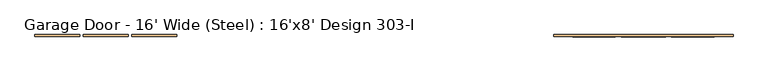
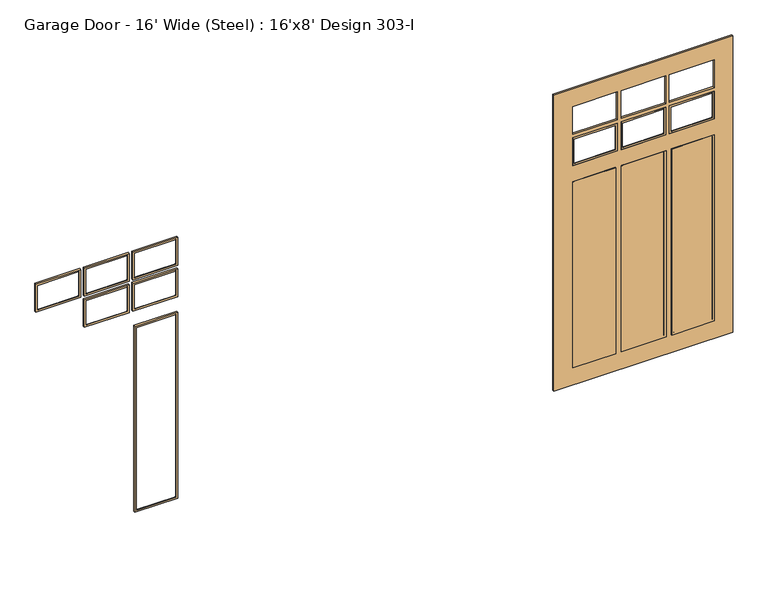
"""IFC4 building model written with IfcOpenShell, lengths in millimetres: door geometry, Garage Door - 16' Wide (Steel) : 16'x8' Design 303-I."""

from ifc_helpers import new_model, si_unit, frame, origin, place, context, project, spatial, polyline, ellipse_curve, outline, extrude, source, transform, mapped, element, save
from ifc_brep_helpers import plane_surface, cylinder_surface, advanced_brep


def garage_door_16_wide_steel_16_x8_design_303_i_fd549f48(model_context):
    return source(origin(), model_context, "Body", "SolidModel", [
        advanced_brep(
        [(1349.375, -107.15625, 1778.0), (1358.9, -116.68125, 1768.475), (1358.9, -116.68125, 1593.85), (1349.375, -107.15625, 1584.325), (1349.375, -103.98125, 1778.0), (1349.375, -103.98125, 1584.325), (1346.2, -116.68125, 1781.175), (1346.2, -103.98125, 1781.175), (1346.2, -103.98125, 1581.15), (1346.2, -116.68125, 1581.15), (1638.3, -116.68125, 1593.85), (1647.825, -107.15625, 1584.325), (1647.825, -103.98125, 1584.325), (1651.0, -103.98125, 1581.15), (1651.0, -116.68125, 1581.15), (1638.3, -116.68125, 1768.475), (1647.825, -107.15625, 1778.0), (1647.825, -103.98125, 1778.0), (1651.0, -103.98125, 1781.175), (1651.0, -116.68125, 1781.175)],
        [
            (0, 1, ellipse_curve(frame((1349.375, -116.68125, 1778.0), z_axis=(-0.7071067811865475, 0.0, -0.7071067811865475), x_axis=(-0.7071067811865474, 0.0, 0.7071067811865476)), 13.4703842, 9.525)),
            (1, 2),
            (2, 3, ellipse_curve(frame((1349.375, -116.68125, 1584.325), z_axis=(-0.7071067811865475, 0.0, 0.7071067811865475), x_axis=(0.7071067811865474, 0.0, 0.7071067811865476)), 13.4703842, 9.525)),
            (3, 0),
            (4, 0),
            (3, 5),
            (5, 4),
            (6, 7),
            (7, 8),
            (8, 9),
            (9, 6),
            (2, 10),
            (10, 11, ellipse_curve(frame((1647.825, -116.68125, 1584.325), z_axis=(-0.7071067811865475, 0.0, -0.7071067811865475), x_axis=(-0.7071067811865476, 0.0, 0.7071067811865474)), 13.4703842, 9.525)),
            (11, 3),
            (11, 12),
            (12, 5),
            (8, 13),
            (13, 14),
            (14, 9),
            (10, 15),
            (15, 16, ellipse_curve(frame((1647.825, -116.68125, 1778.0), z_axis=(0.7071067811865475, 0.0, -0.7071067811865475), x_axis=(-0.7071067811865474, 0.0, -0.7071067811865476)), 13.4703842, 9.525)),
            (16, 11),
            (16, 17),
            (17, 12),
            (13, 18),
            (18, 19),
            (19, 14),
            (19, 6),
            (1, 15),
            (0, 16),
            (4, 17),
            (7, 18),
        ],
        [
            cylinder_surface(frame((1349.375, -116.68125, 1781.175), z_axis=(0.0, 0.0, 1.0), x_axis=(-1.0, 0.0, 0.0)), 9.525),
            plane_surface(frame((1349.375, -107.15625, 1778.0), z_axis=(1.0, 0.0, 0.0), x_axis=(0.0, 0.0, -1.0))),
            plane_surface(frame((1346.2, -103.98125, 1781.175), z_axis=(-1.0, 0.0, 0.0), x_axis=(0.0, 0.0, -1.0))),
            cylinder_surface(frame((1346.2, -116.68125, 1584.325), z_axis=(-1.0, 0.0, 0.0), x_axis=(0.0, 0.0, -1.0)), 9.525),
            plane_surface(frame((1349.375, -107.15625, 1584.325), z_axis=(0.0, 0.0, 1.0), x_axis=(1.0, 0.0, 0.0))),
            plane_surface(frame((1346.2, -103.98125, 1581.15), z_axis=(0.0, 0.0, -1.0), x_axis=(1.0, 0.0, 0.0))),
            cylinder_surface(frame((1647.825, -116.68125, 1581.15), z_axis=(0.0, 0.0, -1.0), x_axis=(1.0, 0.0, 0.0)), 9.525),
            plane_surface(frame((1647.825, -107.15625, 1584.325), z_axis=(-1.0, 0.0, 0.0), x_axis=(0.0, 0.0, 1.0))),
            plane_surface(frame((1651.0, -103.98125, 1581.15), z_axis=(1.0, 0.0, 0.0), x_axis=(0.0, 0.0, 1.0))),
            plane_surface(frame((1651.0, -116.68125, 1781.175), z_axis=(0.0, -1.0, 0.0), x_axis=(-1.0, 0.0, 0.0))),
            cylinder_surface(frame((1651.0, -116.68125, 1778.0), z_axis=(1.0, 0.0, 0.0), x_axis=(0.0, 0.0, 1.0)), 9.525),
            plane_surface(frame((1647.825, -107.15625, 1778.0), z_axis=(0.0, 0.0, -1.0), x_axis=(-1.0, 0.0, 0.0))),
            plane_surface(frame((1647.825, -103.98125, 1778.0), z_axis=(0.0, 1.0, 0.0), x_axis=(-1.0, 0.0, 0.0))),
            plane_surface(frame((1651.0, -103.98125, 1781.175), z_axis=(0.0, 0.0, 1.0), x_axis=(-1.0, 0.0, 0.0))),
        ],
        [
            (0, [[1, 2, 3, 4]]),
            (1, [[5, -4, 6, 7]]),
            (2, [[8, 9, 10, 11]]),
            (3, [[-3, 12, 13, 14]]),
            (4, [[-6, -14, 15, 16]]),
            (5, [[-10, 17, 18, 19]]),
            (6, [[-13, 20, 21, 22]]),
            (7, [[-15, -22, 23, 24]]),
            (8, [[-18, 25, 26, 27]]),
            (9, [[-19, -27, 28, -11], [29, -20, -12, -2]]),
            (10, [[-21, -29, -1, 30]]),
            (11, [[-23, -30, -5, 31]]),
            (12, [[32, -25, -17, -9], [-16, -24, -31, -7]]),
            (13, [[-26, -32, -8, -28]]),
        ],
    ),
        advanced_brep(
        [(1679.575, -107.15625, 1778.0), (1689.1, -116.68125, 1768.475), (1689.1, -116.68125, 1593.85), (1679.575, -107.15625, 1584.325), (1679.575, -103.98125, 1778.0), (1679.575, -103.98125, 1584.325), (1676.4, -116.68125, 1781.175), (1676.4, -103.98125, 1781.175), (1676.4, -103.98125, 1581.15), (1676.4, -116.68125, 1581.15), (1968.5, -116.68125, 1593.85), (1978.025, -107.15625, 1584.325), (1978.025, -103.98125, 1584.325), (1981.2, -103.98125, 1581.15), (1981.2, -116.68125, 1581.15), (1968.5, -116.68125, 1768.475), (1978.025, -107.15625, 1778.0), (1978.025, -103.98125, 1778.0), (1981.2, -103.98125, 1781.175), (1981.2, -116.68125, 1781.175)],
        [
            (0, 1, ellipse_curve(frame((1679.575, -116.68125, 1778.0), z_axis=(-0.7071067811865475, 0.0, -0.7071067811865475), x_axis=(-0.7071067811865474, 0.0, 0.7071067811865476)), 13.4703842, 9.525)),
            (1, 2),
            (2, 3, ellipse_curve(frame((1679.575, -116.68125, 1584.325), z_axis=(-0.7071067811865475, 0.0, 0.7071067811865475), x_axis=(0.7071067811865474, 0.0, 0.7071067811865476)), 13.4703842, 9.525)),
            (3, 0),
            (4, 0),
            (3, 5),
            (5, 4),
            (6, 7),
            (7, 8),
            (8, 9),
            (9, 6),
            (2, 10),
            (10, 11, ellipse_curve(frame((1978.025, -116.68125, 1584.325), z_axis=(-0.7071067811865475, 0.0, -0.7071067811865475), x_axis=(-0.7071067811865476, 0.0, 0.7071067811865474)), 13.4703842, 9.525)),
            (11, 3),
            (11, 12),
            (12, 5),
            (8, 13),
            (13, 14),
            (14, 9),
            (10, 15),
            (15, 16, ellipse_curve(frame((1978.025, -116.68125, 1778.0), z_axis=(0.7071067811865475, 0.0, -0.7071067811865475), x_axis=(-0.7071067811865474, 0.0, -0.7071067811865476)), 13.4703842, 9.525)),
            (16, 11),
            (16, 17),
            (17, 12),
            (13, 18),
            (18, 19),
            (19, 14),
            (19, 6),
            (1, 15),
            (0, 16),
            (4, 17),
            (7, 18),
        ],
        [
            cylinder_surface(frame((1679.575, -116.68125, 1781.175), z_axis=(0.0, 0.0, 1.0), x_axis=(-1.0, 0.0, 0.0)), 9.525),
            plane_surface(frame((1679.575, -107.15625, 1778.0), z_axis=(1.0, 0.0, 0.0), x_axis=(0.0, 0.0, -1.0))),
            plane_surface(frame((1676.4, -103.98125, 1781.175), z_axis=(-1.0, 0.0, 0.0), x_axis=(0.0, 0.0, -1.0))),
            cylinder_surface(frame((1676.4, -116.68125, 1584.325), z_axis=(-1.0, 0.0, 0.0), x_axis=(0.0, 0.0, -1.0)), 9.525),
            plane_surface(frame((1679.575, -107.15625, 1584.325), z_axis=(0.0, 0.0, 1.0), x_axis=(1.0, 0.0, 0.0))),
            plane_surface(frame((1676.4, -103.98125, 1581.15), z_axis=(0.0, 0.0, -1.0), x_axis=(1.0, 0.0, 0.0))),
            cylinder_surface(frame((1978.025, -116.68125, 1581.15), z_axis=(0.0, 0.0, -1.0), x_axis=(1.0, 0.0, 0.0)), 9.525),
            plane_surface(frame((1978.025, -107.15625, 1584.325), z_axis=(-1.0, 0.0, 0.0), x_axis=(0.0, 0.0, 1.0))),
            plane_surface(frame((1981.2, -103.98125, 1581.15), z_axis=(1.0, 0.0, 0.0), x_axis=(0.0, 0.0, 1.0))),
            plane_surface(frame((1981.2, -116.68125, 1781.175), z_axis=(0.0, -1.0, 0.0), x_axis=(-1.0, 0.0, 0.0))),
            cylinder_surface(frame((1981.2, -116.68125, 1778.0), z_axis=(1.0, 0.0, 0.0), x_axis=(0.0, 0.0, 1.0)), 9.525),
            plane_surface(frame((1978.025, -107.15625, 1778.0), z_axis=(0.0, 0.0, -1.0), x_axis=(-1.0, 0.0, 0.0))),
            plane_surface(frame((1978.025, -103.98125, 1778.0), z_axis=(0.0, 1.0, 0.0), x_axis=(-1.0, 0.0, 0.0))),
            plane_surface(frame((1981.2, -103.98125, 1781.175), z_axis=(0.0, 0.0, 1.0), x_axis=(-1.0, 0.0, 0.0))),
        ],
        [
            (0, [[1, 2, 3, 4]]),
            (1, [[5, -4, 6, 7]]),
            (2, [[8, 9, 10, 11]]),
            (3, [[-3, 12, 13, 14]]),
            (4, [[-6, -14, 15, 16]]),
            (5, [[-10, 17, 18, 19]]),
            (6, [[-13, 20, 21, 22]]),
            (7, [[-15, -22, 23, 24]]),
            (8, [[-18, 25, 26, 27]]),
            (9, [[-19, -27, 28, -11], [29, -20, -12, -2]]),
            (10, [[-21, -29, -1, 30]]),
            (11, [[-23, -30, -5, 31]]),
            (12, [[32, -25, -17, -9], [-16, -24, -31, -7]]),
            (13, [[-26, -32, -8, -28]]),
        ],
    ),
        advanced_brep(
        [(2009.775, -107.15625, 1778.0), (2019.3, -116.68125, 1768.475), (2019.3, -116.68125, 1593.85), (2009.775, -107.15625, 1584.325), (2009.775, -103.98125, 1778.0), (2009.775, -103.98125, 1584.325), (2006.6, -116.68125, 1781.175), (2006.6, -103.98125, 1781.175), (2006.6, -103.98125, 1581.15), (2006.6, -116.68125, 1581.15), (2298.7, -116.68125, 1593.85), (2308.225, -107.15625, 1584.325), (2308.225, -103.98125, 1584.325), (2311.4, -103.98125, 1581.15), (2311.4, -116.68125, 1581.15), (2298.7, -116.68125, 1768.475), (2308.225, -107.15625, 1778.0), (2308.225, -103.98125, 1778.0), (2311.4, -103.98125, 1781.175), (2311.4, -116.68125, 1781.175)],
        [
            (0, 1, ellipse_curve(frame((2009.775, -116.68125, 1778.0), z_axis=(-0.7071067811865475, 0.0, -0.7071067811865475), x_axis=(-0.7071067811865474, 0.0, 0.7071067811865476)), 13.4703842, 9.525)),
            (1, 2),
            (2, 3, ellipse_curve(frame((2009.775, -116.68125, 1584.325), z_axis=(-0.7071067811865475, 0.0, 0.7071067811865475), x_axis=(0.7071067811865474, 0.0, 0.7071067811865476)), 13.4703842, 9.525)),
            (3, 0),
            (4, 0),
            (3, 5),
            (5, 4),
            (6, 7),
            (7, 8),
            (8, 9),
            (9, 6),
            (2, 10),
            (10, 11, ellipse_curve(frame((2308.225, -116.68125, 1584.325), z_axis=(-0.7071067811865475, 0.0, -0.7071067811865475), x_axis=(-0.7071067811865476, 0.0, 0.7071067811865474)), 13.4703842, 9.525)),
            (11, 3),
            (11, 12),
            (12, 5),
            (8, 13),
            (13, 14),
            (14, 9),
            (10, 15),
            (15, 16, ellipse_curve(frame((2308.225, -116.68125, 1778.0), z_axis=(0.7071067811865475, 0.0, -0.7071067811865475), x_axis=(-0.7071067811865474, 0.0, -0.7071067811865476)), 13.4703842, 9.525)),
            (16, 11),
            (16, 17),
            (17, 12),
            (13, 18),
            (18, 19),
            (19, 14),
            (19, 6),
            (1, 15),
            (0, 16),
            (4, 17),
            (7, 18),
        ],
        [
            cylinder_surface(frame((2009.775, -116.68125, 1781.175), z_axis=(0.0, 0.0, 1.0), x_axis=(-1.0, 0.0, 0.0)), 9.525),
            plane_surface(frame((2009.775, -107.15625, 1778.0), z_axis=(1.0, 0.0, 0.0), x_axis=(0.0, 0.0, -1.0))),
            plane_surface(frame((2006.6, -103.98125, 1781.175), z_axis=(-1.0, 0.0, 0.0), x_axis=(0.0, 0.0, -1.0))),
            cylinder_surface(frame((2006.6, -116.68125, 1584.325), z_axis=(-1.0, 0.0, 0.0), x_axis=(0.0, 0.0, -1.0)), 9.525),
            plane_surface(frame((2009.775, -107.15625, 1584.325), z_axis=(0.0, 0.0, 1.0), x_axis=(1.0, 0.0, 0.0))),
            plane_surface(frame((2006.6, -103.98125, 1581.15), z_axis=(0.0, 0.0, -1.0), x_axis=(1.0, 0.0, 0.0))),
            cylinder_surface(frame((2308.225, -116.68125, 1581.15), z_axis=(0.0, 0.0, -1.0), x_axis=(1.0, 0.0, 0.0)), 9.525),
            plane_surface(frame((2308.225, -107.15625, 1584.325), z_axis=(-1.0, 0.0, 0.0), x_axis=(0.0, 0.0, 1.0))),
            plane_surface(frame((2311.4, -103.98125, 1581.15), z_axis=(1.0, 0.0, 0.0), x_axis=(0.0, 0.0, 1.0))),
            plane_surface(frame((2311.4, -116.68125, 1781.175), z_axis=(0.0, -1.0, 0.0), x_axis=(-1.0, 0.0, 0.0))),
            cylinder_surface(frame((2311.4, -116.68125, 1778.0), z_axis=(1.0, 0.0, 0.0), x_axis=(0.0, 0.0, 1.0)), 9.525),
            plane_surface(frame((2308.225, -107.15625, 1778.0), z_axis=(0.0, 0.0, -1.0), x_axis=(-1.0, 0.0, 0.0))),
            plane_surface(frame((2308.225, -103.98125, 1778.0), z_axis=(0.0, 1.0, 0.0), x_axis=(-1.0, 0.0, 0.0))),
            plane_surface(frame((2311.4, -103.98125, 1781.175), z_axis=(0.0, 0.0, 1.0), x_axis=(-1.0, 0.0, 0.0))),
        ],
        [
            (0, [[1, 2, 3, 4]]),
            (1, [[5, -4, 6, 7]]),
            (2, [[8, 9, 10, 11]]),
            (3, [[-3, 12, 13, 14]]),
            (4, [[-6, -14, 15, 16]]),
            (5, [[-10, 17, 18, 19]]),
            (6, [[-13, 20, 21, 22]]),
            (7, [[-15, -22, 23, 24]]),
            (8, [[-18, 25, 26, 27]]),
            (9, [[-19, -27, 28, -11], [29, -20, -12, -2]]),
            (10, [[-21, -29, -1, 30]]),
            (11, [[-23, -30, -5, 31]]),
            (12, [[32, -25, -17, -9], [-16, -24, -31, -7]]),
            (13, [[-26, -32, -8, -28]]),
        ],
    ),
        advanced_brep(
        [(1981.2, -103.98125, 1466.85), (1981.2, -116.68125, 1466.85), (1981.2, -116.68125, 127.0), (1981.2, -103.98125, 127.0), (1978.025, -107.15625, 1463.675), (1978.025, -103.98125, 1463.675), (1978.025, -103.98125, 130.175), (1978.025, -107.15625, 130.175), (1968.5, -116.68125, 1454.15), (1968.5, -116.68125, 139.7), (1676.4, -116.68125, 127.0), (1676.4, -103.98125, 127.0), (1679.575, -103.98125, 130.175), (1679.575, -107.15625, 130.175), (1689.1, -116.68125, 139.7), (1676.4, -116.68125, 1466.85), (1676.4, -103.98125, 1466.85), (1679.575, -103.98125, 1463.675), (1679.575, -107.15625, 1463.675), (1689.1, -116.68125, 1454.15)],
        [
            (0, 1),
            (1, 2),
            (2, 3),
            (3, 0),
            (4, 5),
            (5, 6),
            (6, 7),
            (7, 4),
            (8, 4, ellipse_curve(frame((1978.025, -116.68125, 1463.675), z_axis=(0.7071067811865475, 0.0, -0.7071067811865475), x_axis=(0.7071067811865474, 0.0, 0.7071067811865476)), 13.4703842, 9.525)),
            (7, 9, ellipse_curve(frame((1978.025, -116.68125, 130.175), z_axis=(0.7071067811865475, 0.0, 0.7071067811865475), x_axis=(-0.7071067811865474, 0.0, 0.7071067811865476)), 13.4703842, 9.525)),
            (9, 8),
            (2, 10),
            (10, 11),
            (11, 3),
            (6, 12),
            (12, 13),
            (13, 7),
            (13, 14, ellipse_curve(frame((1679.575, -116.68125, 130.175), z_axis=(0.7071067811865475, 0.0, -0.7071067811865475), x_axis=(0.7071067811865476, 0.0, 0.7071067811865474)), 13.4703842, 9.525)),
            (14, 9),
            (10, 15),
            (15, 16),
            (16, 11),
            (12, 17),
            (17, 18),
            (18, 13),
            (18, 19, ellipse_curve(frame((1679.575, -116.68125, 1463.675), z_axis=(-0.7071067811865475, 0.0, -0.7071067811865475), x_axis=(0.7071067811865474, 0.0, -0.7071067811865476)), 13.4703842, 9.525)),
            (19, 14),
            (15, 1),
            (0, 16),
            (5, 17),
            (4, 18),
            (8, 19),
        ],
        [
            plane_surface(frame((1981.2, -116.68125, 1466.85), z_axis=(1.0, 0.0, 0.0), x_axis=(0.0, 0.0, -1.0))),
            plane_surface(frame((1978.025, -103.98125, 1463.675), z_axis=(-1.0, 0.0, 0.0), x_axis=(0.0, 0.0, -1.0))),
            cylinder_surface(frame((1978.025, -116.68125, 1466.85), z_axis=(0.0, 0.0, 1.0), x_axis=(-1.0, 0.0, 0.0)), 9.525),
            plane_surface(frame((1981.2, -116.68125, 127.0), z_axis=(0.0, 0.0, -1.0), x_axis=(-1.0, 0.0, 0.0))),
            plane_surface(frame((1978.025, -103.98125, 130.175), z_axis=(0.0, 0.0, 1.0), x_axis=(-1.0, 0.0, 0.0))),
            cylinder_surface(frame((1981.2, -116.68125, 130.175), z_axis=(1.0, 0.0, 0.0), x_axis=(0.0, 0.0, 1.0)), 9.525),
            plane_surface(frame((1676.4, -116.68125, 127.0), z_axis=(-1.0, 0.0, 0.0), x_axis=(0.0, 0.0, 1.0))),
            plane_surface(frame((1679.575, -103.98125, 130.175), z_axis=(1.0, 0.0, 0.0), x_axis=(0.0, 0.0, 1.0))),
            cylinder_surface(frame((1679.575, -116.68125, 127.0), z_axis=(0.0, 0.0, -1.0), x_axis=(1.0, 0.0, 0.0)), 9.525),
            plane_surface(frame((1676.4, -116.68125, 1466.85), z_axis=(0.0, 0.0, 1.0), x_axis=(1.0, 0.0, 0.0))),
            plane_surface(frame((1676.4, -103.98125, 1466.85), z_axis=(0.0, 1.0, 0.0), x_axis=(1.0, 0.0, 0.0))),
            plane_surface(frame((1679.575, -103.98125, 1463.675), z_axis=(0.0, 0.0, -1.0), x_axis=(1.0, 0.0, 0.0))),
            cylinder_surface(frame((1676.4, -116.68125, 1463.675), z_axis=(-1.0, 0.0, 0.0), x_axis=(0.0, 0.0, -1.0)), 9.525),
            plane_surface(frame((1689.1, -116.68125, 1454.15), z_axis=(0.0, -1.0, 0.0), x_axis=(1.0, 0.0, 0.0))),
        ],
        [
            (0, [[1, 2, 3, 4]]),
            (1, [[5, 6, 7, 8]]),
            (2, [[9, -8, 10, 11]]),
            (3, [[-3, 12, 13, 14]]),
            (4, [[-7, 15, 16, 17]]),
            (5, [[-10, -17, 18, 19]]),
            (6, [[-13, 20, 21, 22]]),
            (7, [[-16, 23, 24, 25]]),
            (8, [[-18, -25, 26, 27]]),
            (9, [[-21, 28, -1, 29]]),
            (10, [[-14, -22, -29, -4], [30, -23, -15, -6]]),
            (11, [[-24, -30, -5, 31]]),
            (12, [[-26, -31, -9, 32]]),
            (13, [[-28, -20, -12, -2], [-19, -27, -32, -11]]),
        ],
    ),
        advanced_brep(
        [(2311.4, -103.98125, 1466.85), (2311.4, -116.68125, 1466.85), (2311.4, -116.68125, 127.0), (2311.4, -103.98125, 127.0), (2308.225, -107.15625, 1463.675), (2308.225, -103.98125, 1463.675), (2308.225, -103.98125, 130.175), (2308.225, -107.15625, 130.175), (2298.7, -116.68125, 1454.15), (2298.7, -116.68125, 139.7), (2019.3, -116.68125, 127.0), (2019.3, -103.98125, 127.0), (2022.475, -103.98125, 130.175), (2022.475, -107.15625, 130.175), (2032.0, -116.68125, 139.7), (2019.3, -116.68125, 1466.85), (2019.3, -103.98125, 1466.85), (2022.475, -103.98125, 1463.675), (2022.475, -107.15625, 1463.675), (2032.0, -116.68125, 1454.15)],
        [
            (0, 1),
            (1, 2),
            (2, 3),
            (3, 0),
            (4, 5),
            (5, 6),
            (6, 7),
            (7, 4),
            (8, 4, ellipse_curve(frame((2308.225, -116.68125, 1463.675), z_axis=(0.7071067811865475, 0.0, -0.7071067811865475), x_axis=(0.7071067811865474, 0.0, 0.7071067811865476)), 13.4703842, 9.525)),
            (7, 9, ellipse_curve(frame((2308.225, -116.68125, 130.175), z_axis=(0.7071067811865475, 0.0, 0.7071067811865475), x_axis=(-0.7071067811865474, 0.0, 0.7071067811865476)), 13.4703842, 9.525)),
            (9, 8),
            (2, 10),
            (10, 11),
            (11, 3),
            (6, 12),
            (12, 13),
            (13, 7),
            (13, 14, ellipse_curve(frame((2022.475, -116.68125, 130.175), z_axis=(0.7071067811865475, 0.0, -0.7071067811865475), x_axis=(0.7071067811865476, 0.0, 0.7071067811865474)), 13.4703842, 9.525)),
            (14, 9),
            (10, 15),
            (15, 16),
            (16, 11),
            (12, 17),
            (17, 18),
            (18, 13),
            (18, 19, ellipse_curve(frame((2022.475, -116.68125, 1463.675), z_axis=(-0.7071067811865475, 0.0, -0.7071067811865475), x_axis=(0.7071067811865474, 0.0, -0.7071067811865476)), 13.4703842, 9.525)),
            (19, 14),
            (15, 1),
            (0, 16),
            (5, 17),
            (4, 18),
            (8, 19),
        ],
        [
            plane_surface(frame((2311.4, -116.68125, 1466.85), z_axis=(1.0, 0.0, 0.0), x_axis=(0.0, 0.0, -1.0))),
            plane_surface(frame((2308.225, -103.98125, 1463.675), z_axis=(-1.0, 0.0, 0.0), x_axis=(0.0, 0.0, -1.0))),
            cylinder_surface(frame((2308.225, -116.68125, 1466.85), z_axis=(0.0, 0.0, 1.0), x_axis=(-1.0, 0.0, 0.0)), 9.525),
            plane_surface(frame((2311.4, -116.68125, 127.0), z_axis=(0.0, 0.0, -1.0), x_axis=(-1.0, 0.0, 0.0))),
            plane_surface(frame((2308.225, -103.98125, 130.175), z_axis=(0.0, 0.0, 1.0), x_axis=(-1.0, 0.0, 0.0))),
            cylinder_surface(frame((2311.4, -116.68125, 130.175), z_axis=(1.0, 0.0, 0.0), x_axis=(0.0, 0.0, 1.0)), 9.525),
            plane_surface(frame((2019.3, -116.68125, 127.0), z_axis=(-1.0, 0.0, 0.0), x_axis=(0.0, 0.0, 1.0))),
            plane_surface(frame((2022.475, -103.98125, 130.175), z_axis=(1.0, 0.0, 0.0), x_axis=(0.0, 0.0, 1.0))),
            cylinder_surface(frame((2022.475, -116.68125, 127.0), z_axis=(0.0, 0.0, -1.0), x_axis=(1.0, 0.0, 0.0)), 9.525),
            plane_surface(frame((2019.3, -116.68125, 1466.85), z_axis=(0.0, 0.0, 1.0), x_axis=(1.0, 0.0, 0.0))),
            plane_surface(frame((2019.3, -103.98125, 1466.85), z_axis=(0.0, 1.0, 0.0), x_axis=(1.0, 0.0, 0.0))),
            plane_surface(frame((2022.475, -103.98125, 1463.675), z_axis=(0.0, 0.0, -1.0), x_axis=(1.0, 0.0, 0.0))),
            cylinder_surface(frame((2019.3, -116.68125, 1463.675), z_axis=(-1.0, 0.0, 0.0), x_axis=(0.0, 0.0, -1.0)), 9.525),
            plane_surface(frame((2032.0, -116.68125, 1454.15), z_axis=(0.0, -1.0, 0.0), x_axis=(1.0, 0.0, 0.0))),
        ],
        [
            (0, [[1, 2, 3, 4]]),
            (1, [[5, 6, 7, 8]]),
            (2, [[9, -8, 10, 11]]),
            (3, [[-3, 12, 13, 14]]),
            (4, [[-7, 15, 16, 17]]),
            (5, [[-10, -17, 18, 19]]),
            (6, [[-13, 20, 21, 22]]),
            (7, [[-16, 23, 24, 25]]),
            (8, [[-18, -25, 26, 27]]),
            (9, [[-21, 28, -1, 29]]),
            (10, [[-14, -22, -29, -4], [30, -23, -15, -6]]),
            (11, [[-24, -30, -5, 31]]),
            (12, [[-26, -31, -9, 32]]),
            (13, [[-28, -20, -12, -2], [-19, -27, -32, -11]]),
        ],
    ),
        extrude(outline(polyline([(2019.3, -116.68125), (2311.4, -116.68125), (2311.4, -119.85625), (2019.3, -119.85625), (2019.3, -116.68125)])), frame((0.0, 0.0, 127.0), z_axis=(0.0, 0.0, 1.0), x_axis=(1.0, 0.0, 0.0)), (0.0, 0.0, 1.0), 1339.85),
        extrude(outline(polyline([(1346.2, -116.68125), (1638.3, -116.68125), (1638.3, -119.85625), (1346.2, -119.85625), (1346.2, -116.68125)])), frame((0.0, 0.0, 127.0), z_axis=(0.0, 0.0, 1.0), x_axis=(1.0, 0.0, 0.0)), (0.0, 0.0, 1.0), 1339.85),
        extrude(outline(polyline([(1676.4, -116.68125), (1981.2, -116.68125), (1981.2, -119.85625), (1676.4, -119.85625), (1676.4, -116.68125)])), frame((0.0, 0.0, 127.0), z_axis=(0.0, 0.0, 1.0), x_axis=(1.0, 0.0, 0.0)), (0.0, 0.0, 1.0), 1339.85),
        extrude(outline(polyline([(2133.6, 1219.2), (0.0, 1219.2), (0.0, 2438.4), (2133.6, 2438.4), (2133.6, 1219.2)]), holes=[polyline([(1806.575, 2311.4), (1806.575, 2006.6), (2006.6, 2006.6), (2006.6, 2311.4), (1806.575, 2311.4)]), polyline([(1781.175, 2311.4), (1581.15, 2311.4), (1581.15, 2006.6), (1781.175, 2006.6), (1781.175, 2311.4)]), polyline([(1806.575, 1981.2), (1806.575, 1676.4), (2006.6, 1676.4), (2006.6, 1981.2), (1806.575, 1981.2)]), polyline([(1581.15, 1981.2), (1581.15, 1676.4), (1781.175, 1676.4), (1781.175, 1981.2), (1581.15, 1981.2)]), polyline([(1806.575, 1651.0), (1806.575, 1346.2), (2006.6, 1346.2), (2006.6, 1651.0), (1806.575, 1651.0)]), polyline([(1581.15, 1651.0), (1581.15, 1346.2), (1781.175, 1346.2), (1781.175, 1651.0), (1581.15, 1651.0)]), polyline([(1466.85, 2311.4), (127.0, 2311.4), (127.0, 2019.3), (1466.85, 2019.3), (1466.85, 2311.4)]), polyline([(127.0, 1346.2), (1466.85, 1346.2), (1466.85, 1638.3), (127.0, 1638.3), (127.0, 1346.2)]), polyline([(127.0, 1981.2), (127.0, 1676.4), (1466.85, 1676.4), (1466.85, 1981.2), (127.0, 1981.2)])]), frame((0.0, -116.68125, 0.0), z_axis=(0.0, 1.0, 0.0), x_axis=(0.0, 0.0, 1.0)), (0.0, 0.0, 1.0), 12.7),
        advanced_brep(
        [(-1349.375, -107.15625, 1463.675), (-1349.375, -107.15625, 130.175), (-1358.9, -116.68125, 139.7), (-1358.9, -116.68125, 1454.15), (-1349.375, -103.98125, 1463.675), (-1349.375, -103.98125, 130.175), (-1346.2, -116.68125, 1466.85), (-1346.2, -116.68125, 127.0), (-1346.2, -103.98125, 127.0), (-1346.2, -103.98125, 1466.85), (-1635.125, -107.15625, 130.175), (-1625.6, -116.68125, 139.7), (-1635.125, -103.98125, 130.175), (-1638.3, -116.68125, 127.0), (-1638.3, -103.98125, 127.0), (-1635.125, -107.15625, 1463.675), (-1625.6, -116.68125, 1454.15), (-1635.125, -103.98125, 1463.675), (-1638.3, -116.68125, 1466.85), (-1638.3, -103.98125, 1466.85)],
        [
            (0, 1),
            (1, 2, ellipse_curve(frame((-1349.375, -116.68125, 130.175), z_axis=(0.7071067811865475, 0.0, 0.7071067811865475), x_axis=(-0.7071067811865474, 0.0, 0.7071067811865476)), 13.4703842, 9.525)),
            (2, 3),
            (3, 0, ellipse_curve(frame((-1349.375, -116.68125, 1463.675), z_axis=(0.7071067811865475, 0.0, -0.7071067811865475), x_axis=(0.7071067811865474, 0.0, 0.7071067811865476)), 13.4703842, 9.525)),
            (4, 5),
            (5, 1),
            (0, 4),
            (6, 7),
            (7, 8),
            (8, 9),
            (9, 6),
            (1, 10),
            (10, 11, ellipse_curve(frame((-1635.125, -116.68125, 130.175), z_axis=(0.7071067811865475, 0.0, -0.7071067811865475), x_axis=(0.7071067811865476, 0.0, 0.7071067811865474)), 13.4703842, 9.525)),
            (11, 2),
            (5, 12),
            (12, 10),
            (7, 13),
            (13, 14),
            (14, 8),
            (10, 15),
            (15, 16, ellipse_curve(frame((-1635.125, -116.68125, 1463.675), z_axis=(-0.7071067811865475, 0.0, -0.7071067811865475), x_axis=(0.7071067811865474, 0.0, -0.7071067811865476)), 13.4703842, 9.525)),
            (16, 11),
            (12, 17),
            (17, 15),
            (13, 18),
            (18, 19),
            (19, 14),
            (6, 18),
            (16, 3),
            (15, 0),
            (17, 4),
            (19, 9),
        ],
        [
            cylinder_surface(frame((-1349.375, -116.68125, 1466.85), z_axis=(0.0, 0.0, 1.0), x_axis=(1.0, 0.0, 0.0)), 9.525),
            plane_surface(frame((-1349.375, -107.15625, 1463.675), z_axis=(-1.0, 0.0, 0.0), x_axis=(0.0, 0.0, -1.0))),
            plane_surface(frame((-1346.2, -103.98125, 1466.85), z_axis=(1.0, 0.0, 0.0), x_axis=(0.0, 0.0, -1.0))),
            cylinder_surface(frame((-1346.2, -116.68125, 130.175), z_axis=(1.0, 0.0, 0.0), x_axis=(0.0, 0.0, -1.0)), 9.525),
            plane_surface(frame((-1349.375, -107.15625, 130.175), z_axis=(0.0, 0.0, 1.0), x_axis=(-1.0, 0.0, 0.0))),
            plane_surface(frame((-1346.2, -103.98125, 127.0), z_axis=(0.0, 0.0, -1.0), x_axis=(-1.0, 0.0, 0.0))),
            cylinder_surface(frame((-1635.125, -116.68125, 127.0), z_axis=(0.0, 0.0, -1.0), x_axis=(-1.0, 0.0, 0.0)), 9.525),
            plane_surface(frame((-1635.125, -107.15625, 130.175), z_axis=(1.0, 0.0, 0.0), x_axis=(0.0, 0.0, 1.0))),
            plane_surface(frame((-1638.3, -103.98125, 127.0), z_axis=(-1.0, 0.0, 0.0), x_axis=(0.0, 0.0, 1.0))),
            plane_surface(frame((-1638.3, -116.68125, 1466.85), z_axis=(0.0, -1.0, 0.0), x_axis=(1.0, 0.0, 0.0))),
            cylinder_surface(frame((-1638.3, -116.68125, 1463.675), z_axis=(-1.0, 0.0, 0.0), x_axis=(0.0, 0.0, 1.0)), 9.525),
            plane_surface(frame((-1635.125, -107.15625, 1463.675), z_axis=(0.0, 0.0, -1.0), x_axis=(1.0, 0.0, 0.0))),
            plane_surface(frame((-1635.125, -103.98125, 1463.675), z_axis=(0.0, 1.0, 0.0), x_axis=(1.0, 0.0, 0.0))),
            plane_surface(frame((-1638.3, -103.98125, 1466.85), z_axis=(0.0, 0.0, 1.0), x_axis=(1.0, 0.0, 0.0))),
        ],
        [
            (0, [[1, 2, 3, 4]]),
            (1, [[5, 6, -1, 7]]),
            (2, [[8, 9, 10, 11]]),
            (3, [[12, 13, 14, -2]]),
            (4, [[15, 16, -12, -6]]),
            (5, [[17, 18, 19, -9]]),
            (6, [[20, 21, 22, -13]]),
            (7, [[23, 24, -20, -16]]),
            (8, [[25, 26, 27, -18]]),
            (9, [[-8, 28, -25, -17], [-3, -14, -22, 29]]),
            (10, [[30, -4, -29, -21]]),
            (11, [[31, -7, -30, -24]]),
            (12, [[-10, -19, -27, 32], [-5, -31, -23, -15]]),
            (13, [[-28, -11, -32, -26]]),
        ],
    ),
        advanced_brep(
        [(-1349.3763092, -107.15625, 2003.4236908), (-1349.3763092, -107.15625, 1809.7486908), (-1358.9013092, -116.68125, 1819.2736908), (-1358.9013092, -116.68125, 1993.8986908), (-1349.3763092, -103.98125, 2003.4236908), (-1349.3763092, -103.98125, 1809.7486908), (-1346.2026183, -116.68125, 2006.5973817), (-1346.2026183, -116.68125, 1806.575), (-1346.2026183, -103.98125, 1806.575), (-1346.2026183, -103.98125, 2006.5973817), (-1647.8263092, -107.15625, 1809.7486908), (-1638.3013092, -116.68125, 1819.2736908), (-1647.8263092, -103.98125, 1809.7486908), (-1651.0, -116.68125, 1806.575), (-1651.0, -103.98125, 1806.575), (-1647.8263092, -107.15625, 2003.4236908), (-1638.3013092, -116.68125, 1993.8986908), (-1647.8263092, -103.98125, 2003.4236908), (-1651.0, -116.68125, 2006.5973817), (-1651.0, -103.98125, 2006.5973817)],
        [
            (0, 1),
            (1, 2, ellipse_curve(frame((-1349.3763092, -116.68125, 1809.7486908), z_axis=(0.7071067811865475, 0.0, 0.7071067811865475), x_axis=(-0.7071067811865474, 0.0, 0.7071067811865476)), 13.4703842, 9.525)),
            (2, 3),
            (3, 0, ellipse_curve(frame((-1349.3763092, -116.68125, 2003.4236908), z_axis=(0.7071067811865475, 0.0, -0.7071067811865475), x_axis=(0.7071067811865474, 0.0, 0.7071067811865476)), 13.4703842, 9.525)),
            (4, 5),
            (5, 1),
            (0, 4),
            (6, 7),
            (7, 8),
            (8, 9),
            (9, 6),
            (1, 10),
            (10, 11, ellipse_curve(frame((-1647.8263092, -116.68125, 1809.7486908), z_axis=(0.7071067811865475, 0.0, -0.7071067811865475), x_axis=(0.7071067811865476, 0.0, 0.7071067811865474)), 13.4703842, 9.525)),
            (11, 2),
            (5, 12),
            (12, 10),
            (7, 13),
            (13, 14),
            (14, 8),
            (10, 15),
            (15, 16, ellipse_curve(frame((-1647.8263092, -116.68125, 2003.4236908), z_axis=(-0.7071067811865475, 0.0, -0.7071067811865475), x_axis=(0.7071067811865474, 0.0, -0.7071067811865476)), 13.4703842, 9.525)),
            (16, 11),
            (12, 17),
            (17, 15),
            (13, 18),
            (18, 19),
            (19, 14),
            (6, 18),
            (16, 3),
            (15, 0),
            (17, 4),
            (19, 9),
        ],
        [
            cylinder_surface(frame((-1349.3763092, -116.68125, 2006.5973817), z_axis=(0.0, 0.0, 1.0), x_axis=(1.0, 0.0, 0.0)), 9.525),
            plane_surface(frame((-1349.3763092, -107.15625, 2003.4236908), z_axis=(-1.0, 0.0, 0.0), x_axis=(0.0, 0.0, -1.0))),
            plane_surface(frame((-1346.2026183, -103.98125, 2006.5973817), z_axis=(1.0, 0.0, 0.0), x_axis=(0.0, 0.0, -1.0))),
            cylinder_surface(frame((-1346.2026183, -116.68125, 1809.7486908), z_axis=(1.0, 0.0, 0.0), x_axis=(0.0, 0.0, -1.0)), 9.525),
            plane_surface(frame((-1349.3763092, -107.15625, 1809.7486908), z_axis=(0.0, 0.0, 1.0), x_axis=(-1.0, 0.0, 0.0))),
            plane_surface(frame((-1346.2026183, -103.98125, 1806.575), z_axis=(0.0, 0.0, -1.0), x_axis=(-1.0, 0.0, 0.0))),
            cylinder_surface(frame((-1647.8263092, -116.68125, 1806.575), z_axis=(0.0, 0.0, -1.0), x_axis=(-1.0, 0.0, 0.0)), 9.525),
            plane_surface(frame((-1647.8263092, -107.15625, 1809.7486908), z_axis=(1.0, 0.0, 0.0), x_axis=(0.0, 0.0, 1.0))),
            plane_surface(frame((-1651.0, -103.98125, 1806.575), z_axis=(-1.0, 0.0, 0.0), x_axis=(0.0, 0.0, 1.0))),
            plane_surface(frame((-1651.0, -116.68125, 2006.5973817), z_axis=(0.0, -1.0, 0.0), x_axis=(1.0, 0.0, 0.0))),
            cylinder_surface(frame((-1651.0, -116.68125, 2003.4236908), z_axis=(-1.0, 0.0, 0.0), x_axis=(0.0, 0.0, 1.0)), 9.525),
            plane_surface(frame((-1647.8263092, -107.15625, 2003.4236908), z_axis=(0.0, 0.0, -1.0), x_axis=(1.0, 0.0, 0.0))),
            plane_surface(frame((-1647.8263092, -103.98125, 2003.4236908), z_axis=(0.0, 1.0, 0.0), x_axis=(1.0, 0.0, 0.0))),
            plane_surface(frame((-1651.0, -103.98125, 2006.5973817), z_axis=(0.0, 0.0, 1.0), x_axis=(1.0, 0.0, 0.0))),
        ],
        [
            (0, [[1, 2, 3, 4]]),
            (1, [[5, 6, -1, 7]]),
            (2, [[8, 9, 10, 11]]),
            (3, [[12, 13, 14, -2]]),
            (4, [[15, 16, -12, -6]]),
            (5, [[17, 18, 19, -9]]),
            (6, [[20, 21, 22, -13]]),
            (7, [[23, 24, -20, -16]]),
            (8, [[25, 26, 27, -18]]),
            (9, [[-8, 28, -25, -17], [-3, -14, -22, 29]]),
            (10, [[30, -4, -29, -21]]),
            (11, [[31, -7, -30, -24]]),
            (12, [[-10, -19, -27, 32], [-5, -31, -23, -15]]),
            (13, [[-28, -11, -32, -26]]),
        ],
    ),
        advanced_brep(
        [(-1679.5763092, -107.15625, 2003.4236908), (-1679.5763092, -107.15625, 1809.7513092), (-1689.1013092, -116.68125, 1819.2763092), (-1689.1013092, -116.68125, 1993.8986908), (-1679.5763092, -103.98125, 2003.4236908), (-1679.5763092, -103.98125, 1809.7513092), (-1676.4013092, -116.68125, 2006.5986908), (-1676.4013092, -116.68125, 1806.5763092), (-1676.4013092, -103.98125, 1806.5763092), (-1676.4013092, -103.98125, 2006.5986908), (-1978.0236908, -107.15625, 1809.7513092), (-1968.4986908, -116.68125, 1819.2763092), (-1978.0236908, -103.98125, 1809.7513092), (-1981.1986908, -116.68125, 1806.5763092), (-1981.1986908, -103.98125, 1806.5763092), (-1978.0236908, -107.15625, 2003.4236908), (-1968.4986908, -116.68125, 1993.8986908), (-1978.0236908, -103.98125, 2003.4236908), (-1981.1986908, -116.68125, 2006.5986908), (-1981.1986908, -103.98125, 2006.5986908)],
        [
            (0, 1),
            (1, 2, ellipse_curve(frame((-1679.5763092, -116.68125, 1809.7513092), z_axis=(0.7071067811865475, 0.0, 0.7071067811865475), x_axis=(-0.7071067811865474, 0.0, 0.7071067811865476)), 13.4703842, 9.525)),
            (2, 3),
            (3, 0, ellipse_curve(frame((-1679.5763092, -116.68125, 2003.4236908), z_axis=(0.7071067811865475, 0.0, -0.7071067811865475), x_axis=(0.7071067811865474, 0.0, 0.7071067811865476)), 13.4703842, 9.525)),
            (4, 5),
            (5, 1),
            (0, 4),
            (6, 7),
            (7, 8),
            (8, 9),
            (9, 6),
            (1, 10),
            (10, 11, ellipse_curve(frame((-1978.0236908, -116.68125, 1809.7513092), z_axis=(0.7071067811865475, 0.0, -0.7071067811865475), x_axis=(0.7071067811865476, 0.0, 0.7071067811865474)), 13.4703842, 9.525)),
            (11, 2),
            (5, 12),
            (12, 10),
            (7, 13),
            (13, 14),
            (14, 8),
            (10, 15),
            (15, 16, ellipse_curve(frame((-1978.0236908, -116.68125, 2003.4236908), z_axis=(-0.7071067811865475, 0.0, -0.7071067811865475), x_axis=(0.7071067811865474, 0.0, -0.7071067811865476)), 13.4703842, 9.525)),
            (16, 11),
            (12, 17),
            (17, 15),
            (13, 18),
            (18, 19),
            (19, 14),
            (6, 18),
            (16, 3),
            (15, 0),
            (17, 4),
            (19, 9),
        ],
        [
            cylinder_surface(frame((-1679.5763092, -116.68125, 2006.6), z_axis=(0.0, 0.0, 1.0), x_axis=(1.0, 0.0, 0.0)), 9.525),
            plane_surface(frame((-1679.5763092, -107.15625, 2003.4236908), z_axis=(-1.0, 0.0, 0.0), x_axis=(0.0, 0.0, -1.0))),
            plane_surface(frame((-1676.4013092, -103.98125, 2006.5986908), z_axis=(1.0, 0.0, 0.0), x_axis=(0.0, 0.0, -1.0))),
            cylinder_surface(frame((-1676.4, -116.68125, 1809.7513092), z_axis=(1.0, 0.0, 0.0), x_axis=(0.0, 0.0, -1.0)), 9.525),
            plane_surface(frame((-1679.5763092, -107.15625, 1809.7513092), z_axis=(0.0, 0.0, 1.0), x_axis=(-1.0, 0.0, 0.0))),
            plane_surface(frame((-1676.4013092, -103.98125, 1806.5763092), z_axis=(0.0, 0.0, -1.0), x_axis=(-1.0, 0.0, 0.0))),
            cylinder_surface(frame((-1978.0236908, -116.68125, 1806.575), z_axis=(0.0, 0.0, -1.0), x_axis=(-1.0, 0.0, 0.0)), 9.525),
            plane_surface(frame((-1978.0236908, -107.15625, 1809.7513092), z_axis=(1.0, 0.0, 0.0), x_axis=(0.0, 0.0, 1.0))),
            plane_surface(frame((-1981.1986908, -103.98125, 1806.5763092), z_axis=(-1.0, 0.0, 0.0), x_axis=(0.0, 0.0, 1.0))),
            plane_surface(frame((-1981.1986908, -116.68125, 2006.5986908), z_axis=(0.0, -1.0, 0.0), x_axis=(1.0, 0.0, 0.0))),
            cylinder_surface(frame((-1981.2, -116.68125, 2003.4236908), z_axis=(-1.0, 0.0, 0.0), x_axis=(0.0, 0.0, 1.0)), 9.525),
            plane_surface(frame((-1978.0236908, -107.15625, 2003.4236908), z_axis=(0.0, 0.0, -1.0), x_axis=(1.0, 0.0, 0.0))),
            plane_surface(frame((-1978.0236908, -103.98125, 2003.4236908), z_axis=(0.0, 1.0, 0.0), x_axis=(1.0, 0.0, 0.0))),
            plane_surface(frame((-1981.1986908, -103.98125, 2006.5986908), z_axis=(0.0, 0.0, 1.0), x_axis=(1.0, 0.0, 0.0))),
        ],
        [
            (0, [[1, 2, 3, 4]]),
            (1, [[5, 6, -1, 7]]),
            (2, [[8, 9, 10, 11]]),
            (3, [[12, 13, 14, -2]]),
            (4, [[15, 16, -12, -6]]),
            (5, [[17, 18, 19, -9]]),
            (6, [[20, 21, 22, -13]]),
            (7, [[23, 24, -20, -16]]),
            (8, [[25, 26, 27, -18]]),
            (9, [[-8, 28, -25, -17], [-3, -14, -22, 29]]),
            (10, [[30, -4, -29, -21]]),
            (11, [[31, -7, -30, -24]]),
            (12, [[-10, -19, -27, 32], [-5, -31, -23, -15]]),
            (13, [[-28, -11, -32, -26]]),
        ],
    ),
        advanced_brep(
        [(-2009.7723817, -107.15625, 2003.425), (-2009.7723817, -107.15625, 1809.7473817), (-2019.2973817, -116.68125, 1819.2723817), (-2019.2973817, -116.68125, 1993.9), (-2009.7723817, -103.98125, 2003.425), (-2009.7723817, -103.98125, 1809.7473817), (-2006.5973817, -116.68125, 2006.6), (-2006.5973817, -116.68125, 1806.5723817), (-2006.5973817, -103.98125, 1806.5723817), (-2006.5973817, -103.98125, 2006.6), (-2308.225, -107.15625, 1809.7473817), (-2298.7, -116.68125, 1819.2723817), (-2308.225, -103.98125, 1809.7473817), (-2311.4, -116.68125, 1806.5723817), (-2311.4, -103.98125, 1806.5723817), (-2308.225, -107.15625, 2003.425), (-2298.7, -116.68125, 1993.9), (-2308.225, -103.98125, 2003.425), (-2311.4, -116.68125, 2006.6), (-2311.4, -103.98125, 2006.6)],
        [
            (0, 1),
            (1, 2, ellipse_curve(frame((-2009.7723817, -116.68125, 1809.7473817), z_axis=(0.7071067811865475, 0.0, 0.7071067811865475), x_axis=(-0.7071067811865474, 0.0, 0.7071067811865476)), 13.4703842, 9.525)),
            (2, 3),
            (3, 0, ellipse_curve(frame((-2009.7723817, -116.68125, 2003.425), z_axis=(0.7071067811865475, 0.0, -0.7071067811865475), x_axis=(0.7071067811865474, 0.0, 0.7071067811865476)), 13.4703842, 9.525)),
            (4, 5),
            (5, 1),
            (0, 4),
            (6, 7),
            (7, 8),
            (8, 9),
            (9, 6),
            (1, 10),
            (10, 11, ellipse_curve(frame((-2308.225, -116.68125, 1809.7473817), z_axis=(0.7071067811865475, 0.0, -0.7071067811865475), x_axis=(0.7071067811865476, 0.0, 0.7071067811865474)), 13.4703842, 9.525)),
            (11, 2),
            (5, 12),
            (12, 10),
            (7, 13),
            (13, 14),
            (14, 8),
            (10, 15),
            (15, 16, ellipse_curve(frame((-2308.225, -116.68125, 2003.425), z_axis=(-0.7071067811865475, 0.0, -0.7071067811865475), x_axis=(0.7071067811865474, 0.0, -0.7071067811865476)), 13.4703842, 9.525)),
            (16, 11),
            (12, 17),
            (17, 15),
            (13, 18),
            (18, 19),
            (19, 14),
            (6, 18),
            (16, 3),
            (15, 0),
            (17, 4),
            (19, 9),
        ],
        [
            cylinder_surface(frame((-2009.7723817, -116.68125, 2006.5973817), z_axis=(0.0, 0.0, 1.0), x_axis=(1.0, 0.0, 0.0)), 9.525),
            plane_surface(frame((-2009.7723817, -107.15625, 2003.425), z_axis=(-1.0, 0.0, 0.0), x_axis=(0.0, 0.0, -1.0))),
            plane_surface(frame((-2006.5973817, -103.98125, 2006.6), z_axis=(1.0, 0.0, 0.0), x_axis=(0.0, 0.0, -1.0))),
            cylinder_surface(frame((-2006.6, -116.68125, 1809.7473817), z_axis=(1.0, 0.0, 0.0), x_axis=(0.0, 0.0, -1.0)), 9.525),
            plane_surface(frame((-2009.7723817, -107.15625, 1809.7473817), z_axis=(0.0, 0.0, 1.0), x_axis=(-1.0, 0.0, 0.0))),
            plane_surface(frame((-2006.5973817, -103.98125, 1806.5723817), z_axis=(0.0, 0.0, -1.0), x_axis=(-1.0, 0.0, 0.0))),
            cylinder_surface(frame((-2308.225, -116.68125, 1806.575), z_axis=(0.0, 0.0, -1.0), x_axis=(-1.0, 0.0, 0.0)), 9.525),
            plane_surface(frame((-2308.225, -107.15625, 1809.7473817), z_axis=(1.0, 0.0, 0.0), x_axis=(0.0, 0.0, 1.0))),
            plane_surface(frame((-2311.4, -103.98125, 1806.5723817), z_axis=(-1.0, 0.0, 0.0), x_axis=(0.0, 0.0, 1.0))),
            plane_surface(frame((-2311.4, -116.68125, 2006.6), z_axis=(0.0, -1.0, 0.0), x_axis=(1.0, 0.0, 0.0))),
            cylinder_surface(frame((-2311.3973817, -116.68125, 2003.425), z_axis=(-1.0, 0.0, 0.0), x_axis=(0.0, 0.0, 1.0)), 9.525),
            plane_surface(frame((-2308.225, -107.15625, 2003.425), z_axis=(0.0, 0.0, -1.0), x_axis=(1.0, 0.0, 0.0))),
            plane_surface(frame((-2308.225, -103.98125, 2003.425), z_axis=(0.0, 1.0, 0.0), x_axis=(1.0, 0.0, 0.0))),
            plane_surface(frame((-2311.4, -103.98125, 2006.6), z_axis=(0.0, 0.0, 1.0), x_axis=(1.0, 0.0, 0.0))),
        ],
        [
            (0, [[1, 2, 3, 4]]),
            (1, [[5, 6, -1, 7]]),
            (2, [[8, 9, 10, 11]]),
            (3, [[12, 13, 14, -2]]),
            (4, [[15, 16, -12, -6]]),
            (5, [[17, 18, 19, -9]]),
            (6, [[20, 21, 22, -13]]),
            (7, [[23, 24, -20, -16]]),
            (8, [[25, 26, 27, -18]]),
            (9, [[-8, 28, -25, -17], [-3, -14, -22, 29]]),
            (10, [[30, -4, -29, -21]]),
            (11, [[31, -7, -30, -24]]),
            (12, [[-10, -19, -27, 32], [-5, -31, -23, -15]]),
            (13, [[-28, -11, -32, -26]]),
        ],
    ),
        advanced_brep(
        [(-1349.375, -107.15625, 1778.0), (-1349.375, -107.15625, 1584.325), (-1358.9, -116.68125, 1593.85), (-1358.9, -116.68125, 1768.475), (-1349.375, -103.98125, 1778.0), (-1349.375, -103.98125, 1584.325), (-1346.2, -116.68125, 1781.175), (-1346.2, -116.68125, 1581.15), (-1346.2, -103.98125, 1581.15), (-1346.2, -103.98125, 1781.175), (-1647.825, -107.15625, 1584.325), (-1638.3, -116.68125, 1593.85), (-1647.825, -103.98125, 1584.325), (-1651.0, -116.68125, 1581.15), (-1651.0, -103.98125, 1581.15), (-1647.825, -107.15625, 1778.0), (-1638.3, -116.68125, 1768.475), (-1647.825, -103.98125, 1778.0), (-1651.0, -116.68125, 1781.175), (-1651.0, -103.98125, 1781.175)],
        [
            (0, 1),
            (1, 2, ellipse_curve(frame((-1349.375, -116.68125, 1584.325), z_axis=(0.7071067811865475, 0.0, 0.7071067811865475), x_axis=(-0.7071067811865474, 0.0, 0.7071067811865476)), 13.4703842, 9.525)),
            (2, 3),
            (3, 0, ellipse_curve(frame((-1349.375, -116.68125, 1778.0), z_axis=(0.7071067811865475, 0.0, -0.7071067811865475), x_axis=(0.7071067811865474, 0.0, 0.7071067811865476)), 13.4703842, 9.525)),
            (4, 5),
            (5, 1),
            (0, 4),
            (6, 7),
            (7, 8),
            (8, 9),
            (9, 6),
            (1, 10),
            (10, 11, ellipse_curve(frame((-1647.825, -116.68125, 1584.325), z_axis=(0.7071067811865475, 0.0, -0.7071067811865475), x_axis=(0.7071067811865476, 0.0, 0.7071067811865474)), 13.4703842, 9.525)),
            (11, 2),
            (5, 12),
            (12, 10),
            (7, 13),
            (13, 14),
            (14, 8),
            (10, 15),
            (15, 16, ellipse_curve(frame((-1647.825, -116.68125, 1778.0), z_axis=(-0.7071067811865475, 0.0, -0.7071067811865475), x_axis=(0.7071067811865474, 0.0, -0.7071067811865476)), 13.4703842, 9.525)),
            (16, 11),
            (12, 17),
            (17, 15),
            (13, 18),
            (18, 19),
            (19, 14),
            (6, 18),
            (16, 3),
            (15, 0),
            (17, 4),
            (19, 9),
        ],
        [
            cylinder_surface(frame((-1349.375, -116.68125, 1781.175), z_axis=(0.0, 0.0, 1.0), x_axis=(1.0, 0.0, 0.0)), 9.525),
            plane_surface(frame((-1349.375, -107.15625, 1778.0), z_axis=(-1.0, 0.0, 0.0), x_axis=(0.0, 0.0, -1.0))),
            plane_surface(frame((-1346.2, -103.98125, 1781.175), z_axis=(1.0, 0.0, 0.0), x_axis=(0.0, 0.0, -1.0))),
            cylinder_surface(frame((-1346.2, -116.68125, 1584.325), z_axis=(1.0, 0.0, 0.0), x_axis=(0.0, 0.0, -1.0)), 9.525),
            plane_surface(frame((-1349.375, -107.15625, 1584.325), z_axis=(0.0, 0.0, 1.0), x_axis=(-1.0, 0.0, 0.0))),
            plane_surface(frame((-1346.2, -103.98125, 1581.15), z_axis=(0.0, 0.0, -1.0), x_axis=(-1.0, 0.0, 0.0))),
            cylinder_surface(frame((-1647.825, -116.68125, 1581.15), z_axis=(0.0, 0.0, -1.0), x_axis=(-1.0, 0.0, 0.0)), 9.525),
            plane_surface(frame((-1647.825, -107.15625, 1584.325), z_axis=(1.0, 0.0, 0.0), x_axis=(0.0, 0.0, 1.0))),
            plane_surface(frame((-1651.0, -103.98125, 1581.15), z_axis=(-1.0, 0.0, 0.0), x_axis=(0.0, 0.0, 1.0))),
            plane_surface(frame((-1651.0, -116.68125, 1781.175), z_axis=(0.0, -1.0, 0.0), x_axis=(1.0, 0.0, 0.0))),
            cylinder_surface(frame((-1651.0, -116.68125, 1778.0), z_axis=(-1.0, 0.0, 0.0), x_axis=(0.0, 0.0, 1.0)), 9.525),
            plane_surface(frame((-1647.825, -107.15625, 1778.0), z_axis=(0.0, 0.0, -1.0), x_axis=(1.0, 0.0, 0.0))),
            plane_surface(frame((-1647.825, -103.98125, 1778.0), z_axis=(0.0, 1.0, 0.0), x_axis=(1.0, 0.0, 0.0))),
            plane_surface(frame((-1651.0, -103.98125, 1781.175), z_axis=(0.0, 0.0, 1.0), x_axis=(1.0, 0.0, 0.0))),
        ],
        [
            (0, [[1, 2, 3, 4]]),
            (1, [[5, 6, -1, 7]]),
            (2, [[8, 9, 10, 11]]),
            (3, [[12, 13, 14, -2]]),
            (4, [[15, 16, -12, -6]]),
            (5, [[17, 18, 19, -9]]),
            (6, [[20, 21, 22, -13]]),
            (7, [[23, 24, -20, -16]]),
            (8, [[25, 26, 27, -18]]),
            (9, [[-8, 28, -25, -17], [-3, -14, -22, 29]]),
            (10, [[30, -4, -29, -21]]),
            (11, [[31, -7, -30, -24]]),
            (12, [[-10, -19, -27, 32], [-5, -31, -23, -15]]),
            (13, [[-28, -11, -32, -26]]),
        ],
    ),
        advanced_brep(
        [(-1679.575, -107.15625, 1778.0), (-1679.575, -107.15625, 1584.325), (-1689.1, -116.68125, 1593.85), (-1689.1, -116.68125, 1768.475), (-1679.575, -103.98125, 1778.0), (-1679.575, -103.98125, 1584.325), (-1676.4, -116.68125, 1781.175), (-1676.4, -116.68125, 1581.15), (-1676.4, -103.98125, 1581.15), (-1676.4, -103.98125, 1781.175), (-1978.025, -107.15625, 1584.325), (-1968.5, -116.68125, 1593.85), (-1978.025, -103.98125, 1584.325), (-1981.2, -116.68125, 1581.15), (-1981.2, -103.98125, 1581.15), (-1978.025, -107.15625, 1778.0), (-1968.5, -116.68125, 1768.475), (-1978.025, -103.98125, 1778.0), (-1981.2, -116.68125, 1781.175), (-1981.2, -103.98125, 1781.175)],
        [
            (0, 1),
            (1, 2, ellipse_curve(frame((-1679.575, -116.68125, 1584.325), z_axis=(0.7071067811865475, 0.0, 0.7071067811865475), x_axis=(-0.7071067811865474, 0.0, 0.7071067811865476)), 13.4703842, 9.525)),
            (2, 3),
            (3, 0, ellipse_curve(frame((-1679.575, -116.68125, 1778.0), z_axis=(0.7071067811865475, 0.0, -0.7071067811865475), x_axis=(0.7071067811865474, 0.0, 0.7071067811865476)), 13.4703842, 9.525)),
            (4, 5),
            (5, 1),
            (0, 4),
            (6, 7),
            (7, 8),
            (8, 9),
            (9, 6),
            (1, 10),
            (10, 11, ellipse_curve(frame((-1978.025, -116.68125, 1584.325), z_axis=(0.7071067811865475, 0.0, -0.7071067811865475), x_axis=(0.7071067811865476, 0.0, 0.7071067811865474)), 13.4703842, 9.525)),
            (11, 2),
            (5, 12),
            (12, 10),
            (7, 13),
            (13, 14),
            (14, 8),
            (10, 15),
            (15, 16, ellipse_curve(frame((-1978.025, -116.68125, 1778.0), z_axis=(-0.7071067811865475, 0.0, -0.7071067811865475), x_axis=(0.7071067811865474, 0.0, -0.7071067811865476)), 13.4703842, 9.525)),
            (16, 11),
            (12, 17),
            (17, 15),
            (13, 18),
            (18, 19),
            (19, 14),
            (6, 18),
            (16, 3),
            (15, 0),
            (17, 4),
            (19, 9),
        ],
        [
            cylinder_surface(frame((-1679.575, -116.68125, 1781.175), z_axis=(0.0, 0.0, 1.0), x_axis=(1.0, 0.0, 0.0)), 9.525),
            plane_surface(frame((-1679.575, -107.15625, 1778.0), z_axis=(-1.0, 0.0, 0.0), x_axis=(0.0, 0.0, -1.0))),
            plane_surface(frame((-1676.4, -103.98125, 1781.175), z_axis=(1.0, 0.0, 0.0), x_axis=(0.0, 0.0, -1.0))),
            cylinder_surface(frame((-1676.4, -116.68125, 1584.325), z_axis=(1.0, 0.0, 0.0), x_axis=(0.0, 0.0, -1.0)), 9.525),
            plane_surface(frame((-1679.575, -107.15625, 1584.325), z_axis=(0.0, 0.0, 1.0), x_axis=(-1.0, 0.0, 0.0))),
            plane_surface(frame((-1676.4, -103.98125, 1581.15), z_axis=(0.0, 0.0, -1.0), x_axis=(-1.0, 0.0, 0.0))),
            cylinder_surface(frame((-1978.025, -116.68125, 1581.15), z_axis=(0.0, 0.0, -1.0), x_axis=(-1.0, 0.0, 0.0)), 9.525),
            plane_surface(frame((-1978.025, -107.15625, 1584.325), z_axis=(1.0, 0.0, 0.0), x_axis=(0.0, 0.0, 1.0))),
            plane_surface(frame((-1981.2, -103.98125, 1581.15), z_axis=(-1.0, 0.0, 0.0), x_axis=(0.0, 0.0, 1.0))),
            plane_surface(frame((-1981.2, -116.68125, 1781.175), z_axis=(0.0, -1.0, 0.0), x_axis=(1.0, 0.0, 0.0))),
            cylinder_surface(frame((-1981.2, -116.68125, 1778.0), z_axis=(-1.0, 0.0, 0.0), x_axis=(0.0, 0.0, 1.0)), 9.525),
            plane_surface(frame((-1978.025, -107.15625, 1778.0), z_axis=(0.0, 0.0, -1.0), x_axis=(1.0, 0.0, 0.0))),
            plane_surface(frame((-1978.025, -103.98125, 1778.0), z_axis=(0.0, 1.0, 0.0), x_axis=(1.0, 0.0, 0.0))),
            plane_surface(frame((-1981.2, -103.98125, 1781.175), z_axis=(0.0, 0.0, 1.0), x_axis=(1.0, 0.0, 0.0))),
        ],
        [
            (0, [[1, 2, 3, 4]]),
            (1, [[5, 6, -1, 7]]),
            (2, [[8, 9, 10, 11]]),
            (3, [[12, 13, 14, -2]]),
            (4, [[15, 16, -12, -6]]),
            (5, [[17, 18, 19, -9]]),
            (6, [[20, 21, 22, -13]]),
            (7, [[23, 24, -20, -16]]),
            (8, [[25, 26, 27, -18]]),
            (9, [[-8, 28, -25, -17], [-3, -14, -22, 29]]),
            (10, [[30, -4, -29, -21]]),
            (11, [[31, -7, -30, -24]]),
            (12, [[-10, -19, -27, 32], [-5, -31, -23, -15]]),
            (13, [[-28, -11, -32, -26]]),
        ],
    ),
    ])


if __name__ == "__main__":
    model = new_model("IFC4")
    model_context = context("Model", 3, world=origin())
    ifc_project = project(units=[si_unit("LENGTHUNIT", "METRE", prefix="MILLI")], contexts=[model_context])
    site = spatial("IfcSite", under=ifc_project)
    building = spatial("IfcBuilding", under=site)
    placement = place(None, origin())
    garage_door_16_wide_steel_16_x8_design_303_i_shape = garage_door_16_wide_steel_16_x8_design_303_i_fd549f48(model_context)
    element("IfcDoor", 1, ObjectType="Garage Door - 16' Wide (Steel) : 16'x8' Design 303-I", at=placement, inside=building, context=model_context, shape_type="MappedRepresentation", body=[
        mapped(garage_door_16_wide_steel_16_x8_design_303_i_shape, transform((0.0, 0.0, 0.0), x_axis=(1.0, 0.0, 0.0), y_axis=(0.0, 1.0, 0.0), z_axis=(0.0, 0.0, 1.0))),
    ])
    save(model, "model.ifc")
